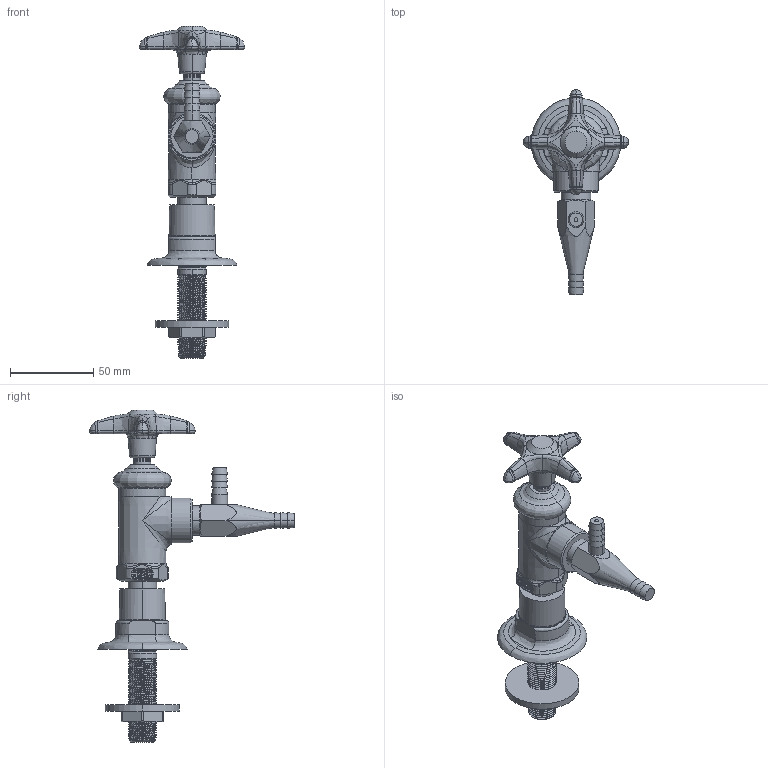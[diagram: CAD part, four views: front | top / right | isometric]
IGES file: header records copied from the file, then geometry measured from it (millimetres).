
Start section:  PTC IGES file: LWV2-C32-55.igs
Global section: file name: LWV2-C32-55.igs; native system: Creo Parametric by PTC Inc.; preprocessor: 2014500; author: usch_engrender; organization: Unknown; date: 20151118.094351; units: inch
Bounding box: 63.42 x 123.15 x 199.45 mm (x, y, z)
Volume: 133273.7 mm3; surface area: 33232.4 mm2
Topology: 1 solids, 4 shells, 569 faces, 1345 edges, 807 vertices
Faces by surface type: bspline 299, revolution 270
